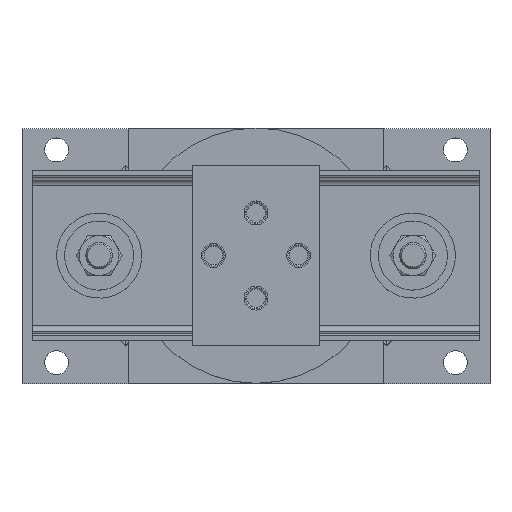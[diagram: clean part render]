
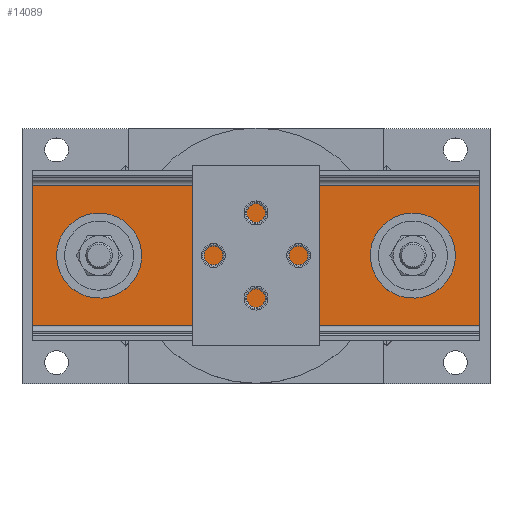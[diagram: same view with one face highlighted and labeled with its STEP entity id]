
A CAD part, top view. The second image highlights one B-rep face of the part: STEP entity #14089.
In plain terms, the highlighted planar face has unit normal (0, 0, 1).
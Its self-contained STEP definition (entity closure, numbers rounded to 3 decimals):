
#1740=LINE('',#18931,#2240);
#1764=LINE('',#18990,#2264);
#1765=LINE('',#18993,#2265);
#1766=LINE('',#18994,#2266);
#2240=VECTOR('',#16605,21.);
#2264=VECTOR('',#16659,21.);
#2265=VECTOR('',#16664,6.572);
#2266=VECTOR('',#16665,6.572);
#3075=PLANE('',#15254);
#3288=FACE_BOUND('',#4642,.T.);
#3289=FACE_BOUND('',#4643,.T.);
#3290=FACE_BOUND('',#4644,.T.);
#3598=FACE_OUTER_BOUND('',#4641,.T.);
#4641=EDGE_LOOP('',(#9849,#9850,#9851,#9852));
#4642=EDGE_LOOP('',(#9853));
#4643=EDGE_LOOP('',(#9854));
#4644=EDGE_LOOP('',(#9855));
#5565=CIRCLE('',#15227,0.188);
#5567=CIRCLE('',#15230,1.125);
#5569=CIRCLE('',#15233,1.125);
#6018=VERTEX_POINT('',#18909);
#6020=VERTEX_POINT('',#18914);
#6022=VERTEX_POINT('',#18919);
#6024=VERTEX_POINT('',#18924);
#6027=VERTEX_POINT('',#18929);
#6046=VERTEX_POINT('',#18987);
#6047=VERTEX_POINT('',#18989);
#7343=EDGE_CURVE('',#6018,#6018,#5565,.T.);
#7345=EDGE_CURVE('',#6020,#6020,#5567,.T.);
#7347=EDGE_CURVE('',#6022,#6022,#5569,.T.);
#7352=EDGE_CURVE('',#6027,#6024,#1740,.T.);
#7381=EDGE_CURVE('',#6047,#6046,#1764,.T.);
#7383=EDGE_CURVE('',#6046,#6024,#1765,.T.);
#7384=EDGE_CURVE('',#6047,#6027,#1766,.T.);
#9849=ORIENTED_EDGE('',*,*,#7383,.T.);
#9850=ORIENTED_EDGE('',*,*,#7352,.F.);
#9851=ORIENTED_EDGE('',*,*,#7384,.F.);
#9852=ORIENTED_EDGE('',*,*,#7381,.T.);
#9853=ORIENTED_EDGE('',*,*,#7343,.T.);
#9854=ORIENTED_EDGE('',*,*,#7345,.T.);
#9855=ORIENTED_EDGE('',*,*,#7347,.T.);
#14089=ADVANCED_FACE('',(#3598,#3288,#3289,#3290),#3075,.T.);
#15227=AXIS2_PLACEMENT_3D('',#18910,#16582,#16583);
#15230=AXIS2_PLACEMENT_3D('',#18915,#16588,#16589);
#15233=AXIS2_PLACEMENT_3D('',#18920,#16594,#16595);
#15254=AXIS2_PLACEMENT_3D('',#18992,#16662,#16663);
#16582=DIRECTION('center_axis',(0.,0.,
-1.));
#16583=DIRECTION('ref_axis',(-1.,0.,0.));
#16588=DIRECTION('center_axis',(0.,0.,
-1.));
#16589=DIRECTION('ref_axis',(-1.,0.,0.));
#16594=DIRECTION('center_axis',(0.,0.,
-1.));
#16595=DIRECTION('ref_axis',(-1.,0.,0.));
#16605=DIRECTION('',(-1.,0.,0.));
#16659=DIRECTION('',(-1.,0.,0.));
#16662=DIRECTION('center_axis',(0.,0.,
1.));
#16663=DIRECTION('ref_axis',(1.,0.,0.));
#16664=DIRECTION('',(0.,-1.,0.));
#16665=DIRECTION('',(0.,-1.,0.));
#18909=CARTESIAN_POINT('',(0.188,0.,20.335));
#18910=CARTESIAN_POINT('Origin',(0.,0.,
20.335));
#18914=CARTESIAN_POINT('',(8.5,0.,20.335));
#18915=CARTESIAN_POINT('Origin',(7.375,0.,20.335));
#18919=CARTESIAN_POINT('',(-6.25,0.,20.335));
#18920=CARTESIAN_POINT('Origin',(-7.375,0.,20.335));
#18924=CARTESIAN_POINT('',(-10.5,-3.286,20.335));
#18929=CARTESIAN_POINT('',(10.5,-3.286,20.335));
#18931=CARTESIAN_POINT('',(10.5,-3.286,20.335));
#18987=CARTESIAN_POINT('',(-10.5,3.286,20.335));
#18989=CARTESIAN_POINT('',(10.5,3.286,20.335));
#18990=CARTESIAN_POINT('',(10.5,3.286,20.335));
#18992=CARTESIAN_POINT('Origin',(10.5,0.,20.335));
#18993=CARTESIAN_POINT('',(-10.5,0.,20.335));
#18994=CARTESIAN_POINT('',(10.5,0.,20.335));
